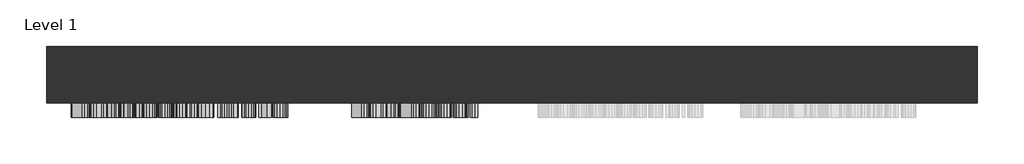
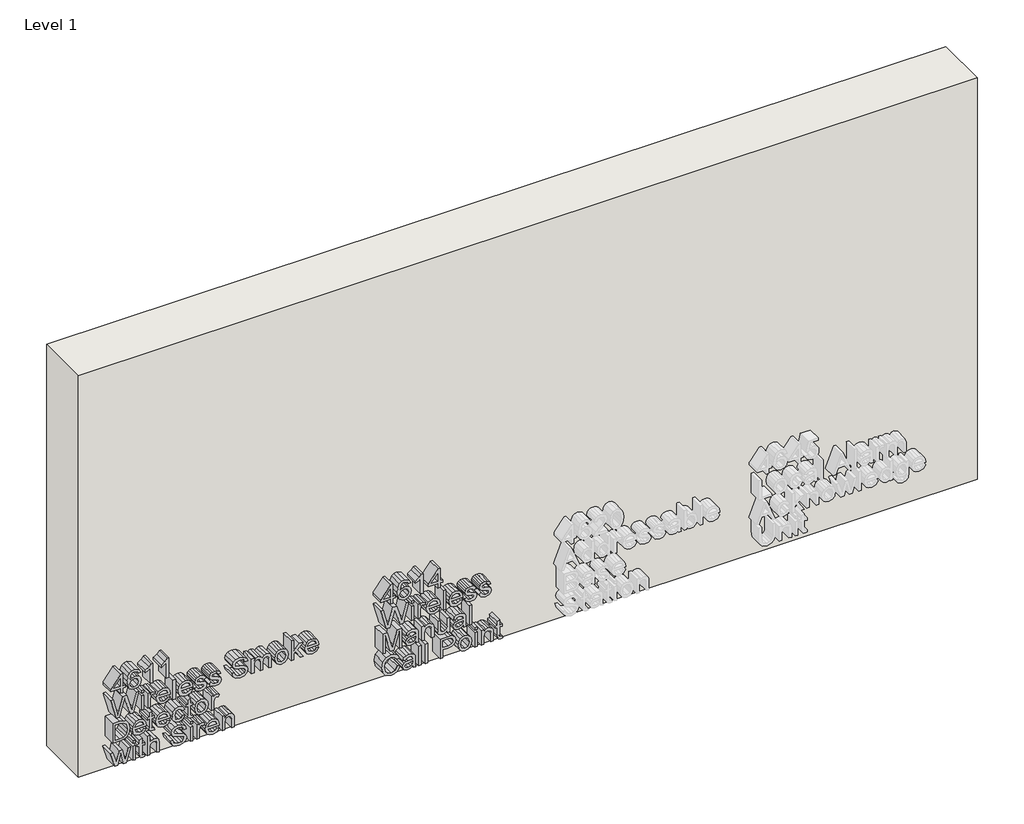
# One storey, part 1 of 2: 2 proxies, 1 wall.
"""IFC4 building model written with IfcOpenShell, lengths in millimetres."""

from ifc_helpers import new_model, si_unit, frame, origin, origin_with_axes, place, context, project, spatial, polyline, outline, extrude, element, save

model = new_model("IFC4")

# Units and contexts
model_context = context("Model", 3, world=origin())
ifc_project = project(units=[si_unit("LENGTHUNIT", "METRE", prefix="MILLI")], contexts=[model_context])

# Site, building, storey
site = spatial("IfcSite", under=ifc_project)
building = spatial("IfcBuilding", under=site)
storey = spatial("IfcBuildingStorey", under=building, Name="Level 1", Elevation=0.0)

# Proxies
placement = place(None, origin())
element("IfcBuildingElementProxy", 1, Name="75 mm", ObjectType="75 mm", at=placement, inside=storey, context=model_context, shape_type="SweptSolid", body=[
    extrude(outline(polyline([(309.699397, -3818.7442573), (309.699397, -3809.3264782), (327.3577328, -3809.3264782), (327.3577328, -3799.9086991), (336.7755119, -3799.9086991), (336.7755119, -3809.3264782), (383.8644073, -3809.3264782), (383.8644073, -3816.3898125), (336.7755119, -3852.8837064), (327.3577328, -3852.8837064), (327.3577328, -3818.7442573), (309.699397, -3818.7442573)]), holes=[polyline([(336.7755119, -3818.7442573), (336.7755119, -3841.2954236), (365.8749777, -3818.7442573), (336.7755119, -3818.7442573)])]), frame((0.0, 3097.8550077, 0.0), z_axis=(0.0, 1.0, 0.0), x_axis=(0.0, 0.0, 1.0)), (0.0, 0.0, 1.0), 50.0),
    extrude(outline(polyline([(365.0288491, -3743.4020247), (379.7257348, -3750.3549944), (385.0416297, -3765.2358211), (382.8941185, -3776.1665149), (376.4515851, -3784.6048081), (363.626299, -3790.7852256), (344.8689158, -3792.8453648), (328.1854673, -3790.98986), (316.9834605, -3785.4233456), (310.6374961, -3776.9137752), (308.5221747, -3766.2291025), (311.713551, -3753.8866615), (320.9106008, -3745.3334051), (333.9060323, -3742.2248023), (343.5583362, -3743.8756727), (351.2516684, -3748.8282841), (356.2870532, -3756.1307417), (357.9655148, -3764.8311509), (355.5099025, -3775.1226497), (347.9959127, -3783.4275857), (364.7805288, -3780.7512442), (373.3429822, -3774.3225064), (375.6238506, -3765.8244323), (371.7059073, -3756.3882591), (363.8516267, -3752.8198037), (365.0288491, -3743.4020247)]), holes=[polyline([(334.0531851, -3783.4275857), (344.547019, -3778.7462873), (348.5477357, -3767.3511425), (344.547019, -3755.808845), (333.5933326, -3751.6425814), (322.1522026, -3755.8640272), (317.9399537, -3766.9648665), (319.9725018, -3775.4537435), (325.8954019, -3781.2478849), (334.0531851, -3783.4275857)])]), frame((0.0, 3097.8550077, 0.0), z_axis=(0.0, 1.0, 0.0), x_axis=(0.0, 0.0, 1.0)), (0.0, 0.0, 1.0), 50.0),
    extrude(outline(polyline([(309.699397, -3698.667574), (385.0416297, -3698.667574), (385.0416297, -3704.737627), (375.0168453, -3713.1161394), (366.2060715, -3726.9209113), (357.3033272, -3726.9209113), (362.058202, -3717.0064915), (368.4133635, -3708.0853531), (309.699397, -3708.0853531), (309.699397, -3698.667574)])), frame((0.0, 3097.8550077, 0.0), z_axis=(0.0, 1.0, 0.0), x_axis=(0.0, 0.0, 1.0)), (0.0, 0.0, 1.0), 50.0),
    extrude(outline(polyline([(309.699397, -3640.9836772), (385.0416297, -3640.9836772), (385.0416297, -3647.0537301), (375.0168453, -3655.4322426), (366.2060715, -3669.2370144), (357.3033272, -3669.2370144), (362.058202, -3659.3225947), (368.4133635, -3650.4014563), (309.699397, -3650.4014563), (309.699397, -3640.9836772)])), frame((0.0, 3097.8550077, 0.0), z_axis=(0.0, 1.0, 0.0), x_axis=(0.0, 0.0, 1.0)), (0.0, 0.0, 1.0), 50.0),
    extrude(outline(polyline([(218.2182837, -3832.337497), (218.2182837, -3820.9699433), (274.6881699, -3804.5072241), (284.4554369, -3801.6745327), (276.3436389, -3799.154541), (218.2182837, -3781.0915351), (218.2182837, -3771.0299625), (293.5605163, -3750.465359), (293.5605163, -3760.1774436), (243.6021413, -3772.2071849), (228.7581028, -3775.7756402), (256.3860407, -3783.85065), (293.5605163, -3794.7031689), (293.5605163, -3808.7010788), (242.2777661, -3823.6370878), (228.7581028, -3827.5734252), (244.0435997, -3831.2522451), (293.5605163, -3843.1716218), (293.5605163, -3852.8837064), (218.2182837, -3832.337497)])), frame((0.0, 3097.8550077, 0.0), z_axis=(0.0, 1.0, 0.0), x_axis=(0.0, 0.0, 1.0)), (0.0, 0.0, 1.0), 50.0),
    extrude(outline(polyline([(-3732.8070232, 3097.8550077), (-3742.2248023, 3097.8550077), (-3742.2248023, 3147.8550077), (-3732.8070232, 3147.8550077), (-3732.8070232, 3097.8550077)])), frame((0.0, 0.0, 284.1427372), z_axis=(0.0, 0.0, 1.0), x_axis=(1.0, 0.0, 0.0)), (0.0, 0.0, 1.0), 9.4177791),
    extrude(outline(polyline([(-3732.8070232, 3097.8550077), (-3742.2248023, 3097.8550077), (-3742.2248023, 3147.8550077), (-3732.8070232, 3147.8550077), (-3732.8070232, 3097.8550077)])), frame((0.0, 0.0, 218.2182837), z_axis=(0.0, 0.0, 1.0), x_axis=(1.0, 0.0, 0.0)), (0.0, 0.0, 1.0), 55.3294521),
    extrude(outline(polyline([(218.2182837, -3718.6803546), (218.2182837, -3709.2625755), (247.2993554, -3709.2625755), (258.299027, -3707.7358652), (263.449375, -3704.3421538), (265.307179, -3699.0170619), (263.3757986, -3692.395186), (271.8186904, -3689.249795), (274.7249581, -3698.7043622), (272.9039422, -3704.5904742), (265.3623613, -3710.4397979), (273.5477357, -3710.4397979), (273.5477357, -3718.6803546), (218.2182837, -3718.6803546)])), frame((0.0, 3097.8550077, 0.0), z_axis=(0.0, 1.0, 0.0), x_axis=(0.0, 0.0, 1.0)), (0.0, 0.0, 1.0), 50.0),
    extrude(outline(polyline([(234.699397, -3644.625709), (228.427009, -3650.6957619), (226.4588403, -3659.9296), (230.7078774, -3672.0605087), (242.9399537, -3677.4775711), (242.9399537, -3635.1527476), (245.4783395, -3635.0975653), (257.825379, -3636.8840922), (267.0546185, -3642.243673), (272.8073732, -3650.4175511), (274.7249581, -3660.6469698), (272.8027747, -3671.2051831), (267.0362244, -3679.5928926), (257.7885908, -3685.0697358), (245.4231572, -3686.8953502), (233.4600946, -3685.0881299), (224.4998687, -3679.666469), (218.9057631, -3671.1637964), (217.0410613, -3660.113541), (221.3636747, -3644.0279007), (233.5221747, -3635.3918709), (234.699397, -3644.625709)]), holes=[polyline([(252.3577328, -3677.4775711), (261.7847089, -3672.2812379), (265.307179, -3660.683758), (260.8925951, -3648.2861348), (252.3577328, -3644.5153444), (252.3577328, -3677.4775711)])]), frame((0.0, 3097.8550077, 0.0), z_axis=(0.0, 1.0, 0.0), x_axis=(0.0, 0.0, 1.0)), (0.0, 0.0, 1.0), 50.0),
    extrude(outline(polyline([(-3616.2620071, 3097.8550077), (-3625.6797862, 3097.8550077), (-3625.6797862, 3147.8550077), (-3616.2620071, 3147.8550077), (-3616.2620071, 3097.8550077)])), frame((0.0, 0.0, 218.2182837), z_axis=(0.0, 0.0, 1.0), x_axis=(1.0, 0.0, 0.0)), (0.0, 0.0, 1.0), 75.3422326),
    extrude(outline(polyline([(234.699397, -3563.3973644), (228.427009, -3569.4674173), (226.4588403, -3578.7012554), (230.7078774, -3590.8321642), (242.9399537, -3596.2492266), (242.9399537, -3553.924403), (245.4783395, -3553.8692207), (257.825379, -3555.6557477), (267.0546185, -3561.0153285), (272.8073732, -3569.1892066), (274.7249581, -3579.4186253), (272.8027747, -3589.9768386), (267.0362244, -3598.3645481), (257.7885908, -3603.8413913), (245.4231572, -3605.6670057), (233.4600946, -3603.8597854), (224.4998687, -3598.4381245), (218.9057631, -3589.9354518), (217.0410613, -3578.8851964), (221.3636747, -3562.7995562), (233.5221747, -3554.1635263), (234.699397, -3563.3973644)]), holes=[polyline([(252.3577328, -3596.2492266), (261.7847089, -3591.0528934), (265.307179, -3579.4554135), (260.8925951, -3567.0577903), (252.3577328, -3563.2869998), (252.3577328, -3596.2492266)])]), frame((0.0, 3097.8550077, 0.0), z_axis=(0.0, 1.0, 0.0), x_axis=(0.0, 0.0, 1.0)), (0.0, 0.0, 1.0), 50.0),
    extrude(outline(polyline([(234.699397, -3547.9831088), (221.4924334, -3540.7726217), (217.0410613, -3524.3466906), (219.3495208, -3512.6848314), (225.8886233, -3504.8029596), (234.9017321, -3502.0714358), (243.0871065, -3504.3982894), (248.1086958, -3510.8178303), (252.5416738, -3524.6409962), (254.5466307, -3532.7527942), (256.625164, -3536.2660673), (259.3658848, -3537.3881074), (263.5229514, -3534.6841747), (265.307179, -3525.6710658), (263.4401779, -3517.3845239), (258.2438447, -3513.8436597), (259.4210671, -3504.4258806), (267.873156, -3507.6632422), (272.8763511, -3514.9473057), (274.7249581, -3526.4068298), (273.5753269, -3534.5094308), (270.7886208, -3540.4967102), (265.4267407, -3545.1136293), (258.4093916, -3546.8058864), (250.8126284, -3544.699762), (245.4323543, -3538.5101474), (240.8246323, -3524.3282965), (238.1390937, -3514.634606), (233.9084508, -3511.4892149), (228.6845264, -3514.6162119), (226.4588403, -3524.2179319), (228.8868615, -3534.2059281), (235.8766194, -3538.5653297), (234.699397, -3547.9831088)])), frame((0.0, 3097.8550077, 0.0), z_axis=(0.0, 1.0, 0.0), x_axis=(0.0, 0.0, 1.0)), (0.0, 0.0, 1.0), 50.0),
    extrude(outline(polyline([(234.699397, -3495.0081015), (221.4924334, -3487.7976144), (217.0410613, -3471.3716833), (219.3495208, -3459.7098241), (225.8886233, -3451.8279523), (234.9017321, -3449.0964285), (243.0871065, -3451.4232821), (248.1086958, -3457.842823), (252.5416738, -3471.6659889), (254.5466307, -3479.7777869), (256.625164, -3483.29106), (259.3658848, -3484.4131001), (263.5229514, -3481.7091674), (265.307179, -3472.6960585), (263.4401779, -3464.4095166), (258.2438447, -3460.8686524), (259.4210671, -3451.4508733), (267.873156, -3454.6882348), (272.8763511, -3461.9722984), (274.7249581, -3473.4318225), (273.5753269, -3481.5344234), (270.7886208, -3487.5217029), (265.4267407, -3492.138622), (258.4093916, -3493.8308791), (250.8126284, -3491.7247547), (245.4323543, -3485.5351401), (240.8246323, -3471.3532892), (238.1390937, -3461.6595987), (233.9084508, -3458.5142076), (228.6845264, -3461.6412046), (226.4588403, -3471.2429246), (228.8868615, -3481.2309208), (235.8766194, -3485.5903224), (234.699397, -3495.0081015)])), frame((0.0, 3097.8550077, 0.0), z_axis=(0.0, 1.0, 0.0), x_axis=(0.0, 0.0, 1.0)), (0.0, 0.0, 1.0), 50.0),
    extrude(outline(polyline([(244.1171761, -3411.4253122), (229.7329901, -3407.3602162), (220.2048464, -3396.7192295), (217.0410613, -3379.8978252), (219.9749202, -3365.651595), (228.1970828, -3355.9395103), (239.4634689, -3352.564193), (250.1136526, -3355.4980519), (257.747204, -3364.6123283), (262.4744877, -3381.2773827), (267.7352002, -3396.6548501), (274.2651056, -3399.6530884), (282.082598, -3395.4224454), (285.3199596, -3381.9395703), (282.0458098, -3368.4934834), (272.3705133, -3363.1591944), (272.3705133, -3353.7414154), (284.1611313, -3357.4754176), (292.0522001, -3367.4082315), (294.7377387, -3382.3074523), (292.1717617, -3396.268574), (284.6485749, -3405.8059147), (273.9891941, -3409.0708674), (264.6265973, -3406.4313141), (257.6184453, -3398.4206837), (252.9739352, -3383.6594186), (249.3778886, -3369.9466173), (245.1012605, -3363.5454705), (239.2243456, -3361.9819721), (232.9059723, -3364.0697024), (228.1786887, -3370.4248639), (226.4588403, -3380.2657072), (228.7305117, -3391.5596845), (234.6902, -3398.9725067), (244.1171761, -3402.0075331), (244.1171761, -3411.4253122)])), frame((0.0, 3097.8550077, 0.0), z_axis=(0.0, 1.0, 0.0), x_axis=(0.0, 0.0, 1.0)), (0.0, 0.0, 1.0), 50.0),
    extrude(outline(polyline([(218.2182837, -3339.6147468), (218.2182837, -3330.1969677), (246.122133, -3330.1969677), (257.3609279, -3328.7622279), (263.2838281, -3324.1269148), (265.307179, -3317.155551), (262.2721526, -3310.0094432), (253.1486791, -3307.8297424), (218.2182837, -3307.8297424), (218.2182837, -3298.4119633), (249.451465, -3298.4119633), (261.5363886, -3294.7239463), (265.307179, -3285.4625171), (263.8356511, -3280.0822429), (259.9636931, -3276.9184577), (252.1002154, -3276.044738), (218.2182837, -3276.044738), (218.2182837, -3266.6269589), (256.1469174, -3266.6269589), (270.1724184, -3270.9403753), (274.7249581, -3283.2552251), (271.9888358, -3292.5350484), (263.7804688, -3299.8834913), (271.8462815, -3305.0706274), (274.7249581, -3314.5068006), (271.9014638, -3323.7222446), (264.4426564, -3330.1969677), (273.5477357, -3330.1969677), (273.5477357, -3339.6147468), (218.2182837, -3339.6147468)])), frame((0.0, 3097.8550077, 0.0), z_axis=(0.0, 1.0, 0.0), x_axis=(0.0, 0.0, 1.0)), (0.0, 0.0, 1.0), 50.0),
    extrude(outline(polyline([(245.8830097, -3254.8547351), (233.5405688, -3253.1463831), (224.4722776, -3248.021327), (218.8988653, -3240.1279589), (217.0410613, -3230.1146709), (220.4163786, -3217.3583627), (229.898537, -3208.4648155), (246.6555619, -3205.4113949), (258.3840997, -3207.138141), (267.2661507, -3212.3183794), (272.8602563, -3220.2209445), (274.7249581, -3230.1146709), (273.1936493, -3239.1553709), (268.5997229, -3246.7061489), (259.2233305, -3252.8175885), (245.8830097, -3254.8547351)]), holes=[polyline([(245.9014038, -3245.436956), (260.4787279, -3241.0775543), (265.307179, -3230.1146709), (260.4603338, -3219.2161668), (246.1957094, -3214.829174), (231.3332768, -3219.1885756), (226.4588403, -3230.1146709), (231.3056856, -3241.0775543), (245.9014038, -3245.436956)])]), frame((0.0, 3097.8550077, 0.0), z_axis=(0.0, 1.0, 0.0), x_axis=(0.0, 0.0, 1.0)), (0.0, 0.0, 1.0), 50.0),
    extrude(outline(polyline([(218.2182837, -3194.8163935), (218.2182837, -3185.3986144), (240.4383562, -3185.3986144), (246.2692858, -3179.3837438), (218.2182837, -3161.0816145), (218.2182837, -3150.0819428), (252.8175853, -3172.6331091), (273.5477357, -3151.2591652), (273.5477357, -3164.2821879), (253.0751027, -3185.3986144), (293.5605163, -3185.3986144), (293.5605163, -3194.8163935), (218.2182837, -3194.8163935)])), frame((0.0, 3097.8550077, 0.0), z_axis=(0.0, 1.0, 0.0), x_axis=(0.0, 0.0, 1.0)), (0.0, 0.0, 1.0), 50.0),
    extrude(outline(polyline([(234.699397, -3103.1034121), (228.427009, -3109.173465), (226.4588403, -3118.4073031), (230.7078774, -3130.5382118), (242.9399537, -3135.9552742), (242.9399537, -3093.6304507), (245.4783395, -3093.5752684), (257.825379, -3095.3617953), (267.0546185, -3100.7213761), (272.8073732, -3108.8952542), (274.7249581, -3119.1246729), (272.8027747, -3129.6828862), (267.0362244, -3138.0705957), (257.7885908, -3143.5474389), (245.4231572, -3145.3730533), (233.4600946, -3143.565833), (224.4998687, -3138.1441721), (218.9057631, -3129.6414995), (217.0410613, -3118.5912441), (221.3636747, -3102.5056038), (233.5221747, -3093.869574), (234.699397, -3103.1034121)]), holes=[polyline([(252.3577328, -3135.9552742), (261.7847089, -3130.758941), (265.307179, -3119.1614611), (260.8925951, -3106.7638379), (252.3577328, -3102.9930475), (252.3577328, -3135.9552742)])]), frame((0.0, 3097.8550077, 0.0), z_axis=(0.0, 1.0, 0.0), x_axis=(0.0, 0.0, 1.0)), (0.0, 0.0, 1.0), 50.0),
    extrude(outline(polyline([(126.7371703, -3845.8203721), (126.7371703, -3818.5787104), (128.0247573, -3806.4661957), (131.8047448, -3797.4622839), (138.6381528, -3790.5828905), (149.6102333, -3785.4325426), (164.8129568, -3783.4275857), (182.7288099, -3786.3890358), (195.6046798, -3795.3101742), (200.994151, -3806.3834222), (202.0794029, -3819.8295092), (202.0794029, -3845.8203721), (126.7371703, -3845.8203721)]), holes=[polyline([(136.1549494, -3836.402593), (192.6616238, -3836.402593), (192.6616238, -3819.9950561), (191.1533076, -3806.6409396), (182.8023863, -3796.8644756), (164.9601096, -3792.8453648), (150.7138793, -3794.8963069), (141.3604796, -3800.626069), (137.5161127, -3807.6158269), (136.1549494, -3819.7375387), (136.1549494, -3836.402593)])]), frame((0.0, 3097.8550077, 0.0), z_axis=(0.0, 1.0, 0.0), x_axis=(0.0, 0.0, 1.0)), (0.0, 0.0, 1.0), 50.0),
    extrude(outline(polyline([(143.2182837, -3732.9173878), (136.9458956, -3738.9874407), (134.977727, -3748.2212788), (139.226764, -3760.3521876), (151.4588403, -3765.76925), (151.4588403, -3723.4444264), (153.9972261, -3723.3892441), (166.3442656, -3725.1757711), (175.5735051, -3730.5353519), (181.3262598, -3738.70923), (183.2438447, -3748.9386487), (181.3216613, -3759.496862), (175.555111, -3767.8845714), (166.3074774, -3773.3614146), (153.9420438, -3775.187029), (141.9789812, -3773.3798087), (133.0187553, -3767.9581478), (127.4246498, -3759.4554752), (125.5599479, -3748.4052198), (129.8825613, -3732.3195796), (142.0410613, -3723.6835497), (143.2182837, -3732.9173878)]), holes=[polyline([(160.8766194, -3765.76925), (170.3035956, -3760.5729168), (173.8260657, -3748.9754369), (169.4114817, -3736.5778137), (160.8766194, -3732.8070232), (160.8766194, -3765.76925)])]), frame((0.0, 3097.8550077, 0.0), z_axis=(0.0, 1.0, 0.0), x_axis=(0.0, 0.0, 1.0)), (0.0, 0.0, 1.0), 50.0),
    extrude(outline(polyline([(134.5914509, -3693.9586845), (134.977727, -3698.0605688), (135.6123234, -3701.2703392), (137.3321717, -3702.8798229), (142.1882141, -3703.3764636), (172.6488433, -3703.3764636), (172.6488433, -3693.9586845), (182.0666223, -3693.9586845), (182.0666223, -3703.3764636), (201.0493333, -3703.3764636), (195.5127093, -3712.7942427), (182.0666223, -3712.7942427), (182.0666223, -3719.857577), (172.6488433, -3719.857577), (172.6488433, -3712.7942427), (141.9123026, -3712.7942427), (131.2253306, -3711.6538085), (127.1234464, -3707.7174711), (125.5599479, -3699.8264023), (126.4612588, -3692.7814621), (134.5914509, -3693.9586845)])), frame((0.0, 3097.8550077, 0.0), z_axis=(0.0, 1.0, 0.0), x_axis=(0.0, 0.0, 1.0)), (0.0, 0.0, 1.0), 50.0),
    extrude(outline(polyline([(143.2182837, -3645.8029313), (136.9458956, -3651.8729843), (134.977727, -3661.1068223), (139.226764, -3673.2377311), (151.4588403, -3678.6547935), (151.4588403, -3636.32997), (153.9972261, -3636.2747877), (166.3442656, -3638.0613146), (175.5735051, -3643.4208954), (181.3262598, -3651.5947735), (183.2438447, -3661.8241922), (181.3216613, -3672.3824055), (175.555111, -3680.770115), (166.3074774, -3686.2469582), (153.9420438, -3688.0725726), (141.9789812, -3686.2653523), (133.0187553, -3680.8436914), (127.4246498, -3672.3410188), (125.5599479, -3661.2907633), (129.8825613, -3645.2051231), (142.0410613, -3636.5690933), (143.2182837, -3645.8029313)]), holes=[polyline([(160.8766194, -3678.6547935), (170.3035956, -3673.4584603), (173.8260657, -3661.8609804), (169.4114817, -3649.4633572), (160.8766194, -3645.6925667), (160.8766194, -3678.6547935)])]), frame((0.0, 3097.8550077, 0.0), z_axis=(0.0, 1.0, 0.0), x_axis=(0.0, 0.0, 1.0)), (0.0, 0.0, 1.0), 50.0),
    extrude(outline(polyline([(146.7499508, -3591.5403371), (137.8656006, -3596.0560885), (134.977727, -3604.9312417), (139.6038431, -3615.682593), (154.4570786, -3619.7936743), (169.1723584, -3615.5906225), (173.8260657, -3604.6737243), (171.4624238, -3597.0861581), (164.4082866, -3592.7175594), (165.585509, -3583.2997804), (178.6453198, -3590.427494), (183.2438447, -3604.7473007), (179.8961186, -3617.5587912), (169.8437431, -3626.3327767), (154.1995612, -3629.2114534), (141.9743827, -3627.526094), (132.963573, -3622.4700158), (127.4108542, -3614.6364286), (125.5599479, -3604.618542), (130.8666457, -3589.682533), (145.5727284, -3582.122558), (146.7499508, -3591.5403371)])), frame((0.0, 3097.8550077, 0.0), z_axis=(0.0, 1.0, 0.0), x_axis=(0.0, 0.0, 1.0)), (0.0, 0.0, 1.0), 50.0),
    extrude(outline(polyline([(134.5914509, -3553.8692207), (134.977727, -3557.971105), (135.6123234, -3561.1808754), (137.3321717, -3562.7903591), (142.1882141, -3563.2869998), (172.6488433, -3563.2869998), (172.6488433, -3553.8692207), (182.0666223, -3553.8692207), (182.0666223, -3563.2869998), (201.0493333, -3563.2869998), (195.5127093, -3572.7047789), (182.0666223, -3572.7047789), (182.0666223, -3579.7681132), (172.6488433, -3579.7681132), (172.6488433, -3572.7047789), (141.9123026, -3572.7047789), (131.2253306, -3571.5643447), (127.1234464, -3567.6280074), (125.5599479, -3559.7369386), (126.4612588, -3552.6919984), (134.5914509, -3553.8692207)])), frame((0.0, 3097.8550077, 0.0), z_axis=(0.0, 1.0, 0.0), x_axis=(0.0, 0.0, 1.0)), (0.0, 0.0, 1.0), 50.0),
    extrude(outline(polyline([(154.4018963, -3546.8058864), (142.0594554, -3545.0975344), (132.9911642, -3539.9724784), (127.417752, -3532.0791103), (125.5599479, -3522.0658223), (128.9352652, -3509.3095141), (138.4174236, -3500.4159668), (155.1744485, -3497.3625463), (166.9029864, -3499.0892924), (175.7850373, -3504.2695307), (181.3791429, -3512.1720959), (183.2438447, -3522.0658223), (181.7125359, -3531.1065223), (177.1186095, -3538.6573002), (167.7422172, -3544.7687399), (154.4018963, -3546.8058864)]), holes=[polyline([(154.4202904, -3537.3881074), (168.9976145, -3533.0287057), (173.8260657, -3522.0658223), (168.9792204, -3511.1673182), (154.714596, -3506.7803254), (139.8521634, -3511.139727), (134.977727, -3522.0658223), (139.8245723, -3533.0287057), (154.4202904, -3537.3881074)])]), frame((0.0, 3097.8550077, 0.0), z_axis=(0.0, 1.0, 0.0), x_axis=(0.0, 0.0, 1.0)), (0.0, 0.0, 1.0), 50.0),
    extrude(outline(polyline([(126.7371703, -3486.7675448), (126.7371703, -3477.3497658), (155.818242, -3477.3497658), (166.8179136, -3475.8230555), (171.9682616, -3472.4293441), (173.8260657, -3467.1042522), (171.8946852, -3460.4823763), (180.337577, -3457.3369852), (183.2438447, -3466.7915525), (181.4228289, -3472.6776644), (173.881248, -3478.5269881), (182.0666223, -3478.5269881), (182.0666223, -3486.7675448), (126.7371703, -3486.7675448)])), frame((0.0, 3097.8550077, 0.0), z_axis=(0.0, 1.0, 0.0), x_axis=(0.0, 0.0, 1.0)), (0.0, 0.0, 1.0), 50.0),
    extrude(outline(polyline([(35.2560569, -3837.8189387), (35.2560569, -3826.3042323), (77.8200037, -3816.9784237), (67.7032489, -3814.8814963), (35.2560569, -3807.6526151), (35.2560569, -3796.2666674), (90.585509, -3779.3073074), (90.585509, -3789.1297567), (58.5245931, -3798.6946885), (47.9111975, -3801.6745327), (57.9727701, -3803.753066), (90.585509, -3811.313041), (90.585509, -3822.5334418), (57.8807996, -3830.130205), (46.7707633, -3832.4662557), (58.3038639, -3835.3173412), (90.585509, -3844.8638789), (90.585509, -3854.64954), (35.2560569, -3837.8189387)])), frame((0.0, 3097.8550077, 0.0), z_axis=(0.0, 1.0, 0.0), x_axis=(0.0, 0.0, 1.0)), (0.0, 0.0, 1.0), 50.0),
    extrude(outline(polyline([(-3763.4148052, 3097.8550077), (-3772.8325843, 3097.8550077), (-3772.8325843, 3147.8550077), (-3763.4148052, 3147.8550077), (-3763.4148052, 3097.8550077)])), frame((0.0, 0.0, 101.1805104), z_axis=(0.0, 0.0, 1.0), x_axis=(1.0, 0.0, 0.0)), (0.0, 0.0, 1.0), 9.4177791),
    extrude(outline(polyline([(-3763.4148052, 3097.8550077), (-3772.8325843, 3097.8550077), (-3772.8325843, 3147.8550077), (-3763.4148052, 3147.8550077), (-3763.4148052, 3097.8550077)])), frame((0.0, 0.0, 35.2560569), z_axis=(0.0, 0.0, 1.0), x_axis=(1.0, 0.0, 0.0)), (0.0, 0.0, 1.0), 55.3294521),
    extrude(outline(polyline([(43.1103375, -3729.275356), (43.4966136, -3733.3772403), (44.13121, -3736.5870107), (45.8510584, -3738.1964944), (50.7071007, -3738.6931351), (81.1677299, -3738.6931351), (81.1677299, -3729.275356), (90.585509, -3729.275356), (90.585509, -3738.6931351), (109.5682199, -3738.6931351), (104.0315959, -3748.1109142), (90.585509, -3748.1109142), (90.585509, -3755.1742485), (81.1677299, -3755.1742485), (81.1677299, -3748.1109142), (50.4311892, -3748.1109142), (39.7442172, -3746.97048), (35.642333, -3743.0341427), (34.0788345, -3735.1430739), (34.9801454, -3728.0981337), (43.1103375, -3729.275356)])), frame((0.0, 3097.8550077, 0.0), z_axis=(0.0, 1.0, 0.0), x_axis=(0.0, 0.0, 1.0)), (0.0, 0.0, 1.0), 50.0),
    extrude(outline(polyline([(35.2560569, -3719.857577), (35.2560569, -3710.4397979), (64.6498283, -3710.4397979), (74.5642481, -3708.9038906), (80.2480249, -3703.7535426), (82.3449523, -3696.0372178), (79.2363494, -3687.5391437), (69.3035355, -3684.5409054), (35.2560569, -3684.5409054), (35.2560569, -3675.1231264), (70.2784228, -3675.1231264), (82.657652, -3677.0545068), (89.3439072, -3683.4740476), (91.7627313, -3694.050655), (89.5462423, -3703.0959536), (82.8967753, -3710.4397979), (110.5982895, -3710.4397979), (110.5982895, -3719.857577), (35.2560569, -3719.857577)])), frame((0.0, 3097.8550077, 0.0), z_axis=(0.0, 1.0, 0.0), x_axis=(0.0, 0.0, 1.0)), (0.0, 0.0, 1.0), 50.0),
    extrude(outline(polyline([(61.1549494, -3635.0975653), (46.7707633, -3631.0324692), (37.2426197, -3620.3914825), (34.0788345, -3603.5700783), (37.0126934, -3589.323848), (45.234856, -3579.6117634), (56.5012421, -3576.2364461), (67.1514259, -3579.170305), (74.7849773, -3588.2845814), (79.5122609, -3604.9496358), (84.7729734, -3620.3271032), (91.3028789, -3623.3253414), (99.1203713, -3619.0946985), (102.3577328, -3605.6118234), (99.0835831, -3592.1657364), (89.4082866, -3586.8314475), (89.4082866, -3577.4136684), (101.1989045, -3581.1476707), (109.0899733, -3591.0804846), (111.7755119, -3605.9797054), (109.209535, -3619.9408271), (101.6863482, -3629.4781678), (91.0269674, -3632.7431205), (81.6643706, -3630.1035672), (74.6562186, -3622.0929368), (70.0117084, -3607.3316717), (66.4156619, -3593.6188703), (62.1390337, -3587.2177236), (56.2621188, -3585.6542251), (49.9437455, -3587.7419555), (45.2164619, -3594.0971169), (43.4966136, -3603.9379603), (45.7682849, -3615.2319375), (51.7279732, -3622.6447597), (61.1549494, -3625.6797862), (61.1549494, -3635.0975653)])), frame((0.0, 3097.8550077, 0.0), z_axis=(0.0, 1.0, 0.0), x_axis=(0.0, 0.0, 1.0)), (0.0, 0.0, 1.0), 50.0),
    extrude(outline(polyline([(-3553.8692207, 3097.8550077), (-3563.2869998, 3097.8550077), (-3563.2869998, 3147.8550077), (-3553.8692207, 3147.8550077), (-3553.8692207, 3097.8550077)])), frame((0.0, 0.0, 101.1805104), z_axis=(0.0, 0.0, 1.0), x_axis=(1.0, 0.0, 0.0)), (0.0, 0.0, 1.0), 9.4177791),
    extrude(outline(polyline([(-3553.8692207, 3097.8550077), (-3563.2869998, 3097.8550077), (-3563.2869998, 3147.8550077), (-3553.8692207, 3147.8550077), (-3553.8692207, 3097.8550077)])), frame((0.0, 0.0, 35.2560569), z_axis=(0.0, 0.0, 1.0), x_axis=(1.0, 0.0, 0.0)), (0.0, 0.0, 1.0), 55.3294521),
    extrude(outline(polyline([(35.2560569, -3539.7425521), (35.2560569, -3530.3247731), (64.3371286, -3530.3247731), (75.3368003, -3528.7980628), (80.4871482, -3525.4043514), (82.3449523, -3520.0792595), (80.4135718, -3513.4573836), (88.8564636, -3510.3119925), (91.7627313, -3519.7665598), (89.9417155, -3525.6526717), (82.4001346, -3531.5019954), (90.585509, -3531.5019954), (90.585509, -3539.7425521), (35.2560569, -3539.7425521)])), frame((0.0, 3097.8550077, 0.0), z_axis=(0.0, 1.0, 0.0), x_axis=(0.0, 0.0, 1.0)), (0.0, 0.0, 1.0), 50.0),
    extrude(outline(polyline([(51.7371703, -3465.6879065), (45.4647823, -3471.7579594), (43.4966136, -3480.9917975), (47.7456506, -3493.1227063), (59.977727, -3498.5397687), (59.977727, -3456.2149451), (62.5161127, -3456.1597628), (74.8631522, -3457.9462898), (84.0923917, -3463.3058706), (89.8451464, -3471.4797487), (91.7627313, -3481.7091674), (89.8405479, -3492.2673807), (84.0739977, -3500.6550901), (74.826364, -3506.1319333), (62.4609304, -3507.9575477), (50.4978678, -3506.1503274), (41.537642, -3500.7286665), (35.9435364, -3492.2259939), (34.0788345, -3481.1757385), (38.4014479, -3465.0900983), (50.5599479, -3456.4540684), (51.7371703, -3465.6879065)]), holes=[polyline([(69.395506, -3498.5397687), (78.8224822, -3493.3434355), (82.3449523, -3481.7459556), (77.9303683, -3469.3483324), (69.395506, -3465.5775419), (69.395506, -3498.5397687)])]), frame((0.0, 3097.8550077, 0.0), z_axis=(0.0, 1.0, 0.0), x_axis=(0.0, 0.0, 1.0)), (0.0, 0.0, 1.0), 50.0),
    extrude(outline(polyline([(35.2560569, -3446.7419838), (35.2560569, -3437.3242047), (64.6130401, -3437.3242047), (78.6477382, -3433.0291824), (82.3449523, -3422.81126), (80.6986803, -3416.3457339), (76.2932935, -3412.5105641), (67.9607663, -3411.4253122), (35.2560569, -3411.4253122), (35.2560569, -3402.0075331), (69.2299591, -3402.0075331), (78.3350385, -3402.5041738), (85.2604171, -3405.3276681), (89.9693066, -3411.3977211), (91.7627313, -3420.2912683), (89.5370453, -3430.1229146), (82.8599871, -3437.3242047), (90.585509, -3437.3242047), (90.585509, -3446.7419838), (35.2560569, -3446.7419838)])), frame((0.0, 3097.8550077, 0.0), z_axis=(0.0, 1.0, 0.0), x_axis=(0.0, 0.0, 1.0)), (0.0, 0.0, 1.0), 50.0),
])
element("IfcBuildingElementProxy", 2, Name="75 mm", ObjectType="75 mm", at=placement, inside=storey, context=model_context, shape_type="SweptSolid", body=[
    extrude(outline(polyline([(309.699397, -2833.7442573), (309.699397, -2824.3264782), (327.3577328, -2824.3264782), (327.3577328, -2814.9086991), (336.7755119, -2814.9086991), (336.7755119, -2824.3264782), (383.8644073, -2824.3264782), (383.8644073, -2831.3898125), (336.7755119, -2867.8837064), (327.3577328, -2867.8837064), (327.3577328, -2833.7442573), (309.699397, -2833.7442573)]), holes=[polyline([(336.7755119, -2833.7442573), (336.7755119, -2856.2954236), (365.8749777, -2833.7442573), (336.7755119, -2833.7442573)])]), frame((0.0, 3097.8550077, 0.0), z_axis=(0.0, 1.0, 0.0), x_axis=(0.0, 0.0, 1.0)), (0.0, 0.0, 1.0), 50.0),
    extrude(outline(polyline([(365.0288491, -2758.4020247), (379.7257348, -2765.3549944), (385.0416297, -2780.2358211), (382.8941185, -2791.1665149), (376.4515851, -2799.6048081), (363.626299, -2805.7852256), (344.8689158, -2807.8453648), (328.1854673, -2805.98986), (316.9834605, -2800.4233456), (310.6374961, -2791.9137752), (308.5221747, -2781.2291025), (311.713551, -2768.8866615), (320.9106008, -2760.3334051), (333.9060323, -2757.2248023), (343.5583362, -2758.8756727), (351.2516684, -2763.8282841), (356.2870532, -2771.1307417), (357.9655148, -2779.8311509), (355.5099025, -2790.1226497), (347.9959127, -2798.4275857), (364.7805288, -2795.7512442), (373.3429822, -2789.3225064), (375.6238506, -2780.8244323), (371.7059073, -2771.3882591), (363.8516267, -2767.8198037), (365.0288491, -2758.4020247)]), holes=[polyline([(334.0531851, -2798.4275857), (344.547019, -2793.7462873), (348.5477357, -2782.3511425), (344.547019, -2770.808845), (333.5933326, -2766.6425814), (322.1522026, -2770.8640272), (317.9399537, -2781.9648665), (319.9725018, -2790.4537435), (325.8954019, -2796.2478849), (334.0531851, -2798.4275857)])]), frame((0.0, 3097.8550077, 0.0), z_axis=(0.0, 1.0, 0.0), x_axis=(0.0, 0.0, 1.0)), (0.0, 0.0, 1.0), 50.0),
    extrude(outline(polyline([(309.699397, -2713.667574), (385.0416297, -2713.667574), (385.0416297, -2719.737627), (375.0168453, -2728.1161394), (366.2060715, -2741.9209113), (357.3033272, -2741.9209113), (362.058202, -2732.0064915), (368.4133635, -2723.0853531), (309.699397, -2723.0853531), (309.699397, -2713.667574)])), frame((0.0, 3097.8550077, 0.0), z_axis=(0.0, 1.0, 0.0), x_axis=(0.0, 0.0, 1.0)), (0.0, 0.0, 1.0), 50.0),
    extrude(outline(polyline([(309.699397, -2660.6925667), (309.699397, -2651.2747877), (327.3577328, -2651.2747877), (327.3577328, -2641.8570086), (336.7755119, -2641.8570086), (336.7755119, -2651.2747877), (383.8644073, -2651.2747877), (383.8644073, -2658.338122), (336.7755119, -2694.8320159), (327.3577328, -2694.8320159), (327.3577328, -2660.6925667), (309.699397, -2660.6925667)]), holes=[polyline([(336.7755119, -2660.6925667), (336.7755119, -2683.243733), (365.8749777, -2660.6925667), (336.7755119, -2660.6925667)])]), frame((0.0, 3097.8550077, 0.0), z_axis=(0.0, 1.0, 0.0), x_axis=(0.0, 0.0, 1.0)), (0.0, 0.0, 1.0), 50.0),
    extrude(outline(polyline([(218.2182837, -2847.337497), (218.2182837, -2835.9699433), (274.6881699, -2819.5072241), (284.4554369, -2816.6745327), (276.3436389, -2814.154541), (218.2182837, -2796.0915351), (218.2182837, -2786.0299625), (293.5605163, -2765.465359), (293.5605163, -2775.1774436), (243.6021413, -2787.2071849), (228.7581028, -2790.7756402), (256.3860407, -2798.85065), (293.5605163, -2809.7031689), (293.5605163, -2823.7010788), (242.2777661, -2838.6370878), (228.7581028, -2842.5734252), (244.0435997, -2846.2522451), (293.5605163, -2858.1716218), (293.5605163, -2867.8837064), (218.2182837, -2847.337497)])), frame((0.0, 3097.8550077, 0.0), z_axis=(0.0, 1.0, 0.0), x_axis=(0.0, 0.0, 1.0)), (0.0, 0.0, 1.0), 50.0),
    extrude(outline(polyline([(-2747.8070232, 3097.8550077), (-2757.2248023, 3097.8550077), (-2757.2248023, 3147.8550077), (-2747.8070232, 3147.8550077), (-2747.8070232, 3097.8550077)])), frame((0.0, 0.0, 284.1427372), z_axis=(0.0, 0.0, 1.0), x_axis=(1.0, 0.0, 0.0)), (0.0, 0.0, 1.0), 9.4177791),
    extrude(outline(polyline([(-2747.8070232, 3097.8550077), (-2757.2248023, 3097.8550077), (-2757.2248023, 3147.8550077), (-2747.8070232, 3147.8550077), (-2747.8070232, 3097.8550077)])), frame((0.0, 0.0, 218.2182837), z_axis=(0.0, 0.0, 1.0), x_axis=(1.0, 0.0, 0.0)), (0.0, 0.0, 1.0), 55.3294521),
    extrude(outline(polyline([(218.2182837, -2733.6803546), (218.2182837, -2724.2625755), (247.2993554, -2724.2625755), (258.299027, -2722.7358652), (263.449375, -2719.3421538), (265.307179, -2714.0170619), (263.3757986, -2707.395186), (271.8186904, -2704.249795), (274.7249581, -2713.7043622), (272.9039422, -2719.5904742), (265.3623613, -2725.4397979), (273.5477357, -2725.4397979), (273.5477357, -2733.6803546), (218.2182837, -2733.6803546)])), frame((0.0, 3097.8550077, 0.0), z_axis=(0.0, 1.0, 0.0), x_axis=(0.0, 0.0, 1.0)), (0.0, 0.0, 1.0), 50.0),
    extrude(outline(polyline([(234.699397, -2659.625709), (228.427009, -2665.6957619), (226.4588403, -2674.9296), (230.7078774, -2687.0605087), (242.9399537, -2692.4775711), (242.9399537, -2650.1527476), (245.4783395, -2650.0975653), (257.825379, -2651.8840922), (267.0546185, -2657.243673), (272.8073732, -2665.4175511), (274.7249581, -2675.6469698), (272.8027747, -2686.2051831), (267.0362244, -2694.5928926), (257.7885908, -2700.0697358), (245.4231572, -2701.8953502), (233.4600946, -2700.0881299), (224.4998687, -2694.666469), (218.9057631, -2686.1637964), (217.0410613, -2675.113541), (221.3636747, -2659.0279007), (233.5221747, -2650.3918709), (234.699397, -2659.625709)]), holes=[polyline([(252.3577328, -2692.4775711), (261.7847089, -2687.2812379), (265.307179, -2675.683758), (260.8925951, -2663.2861348), (252.3577328, -2659.5153444), (252.3577328, -2692.4775711)])]), frame((0.0, 3097.8550077, 0.0), z_axis=(0.0, 1.0, 0.0), x_axis=(0.0, 0.0, 1.0)), (0.0, 0.0, 1.0), 50.0),
    extrude(outline(polyline([(-2631.2620071, 3097.8550077), (-2640.6797862, 3097.8550077), (-2640.6797862, 3147.8550077), (-2631.2620071, 3147.8550077), (-2631.2620071, 3097.8550077)])), frame((0.0, 0.0, 218.2182837), z_axis=(0.0, 0.0, 1.0), x_axis=(1.0, 0.0, 0.0)), (0.0, 0.0, 1.0), 75.3422326),
    extrude(outline(polyline([(234.699397, -2578.3973644), (228.427009, -2584.4674173), (226.4588403, -2593.7012554), (230.7078774, -2605.8321642), (242.9399537, -2611.2492266), (242.9399537, -2568.924403), (245.4783395, -2568.8692207), (257.825379, -2570.6557477), (267.0546185, -2576.0153285), (272.8073732, -2584.1892066), (274.7249581, -2594.4186253), (272.8027747, -2604.9768386), (267.0362244, -2613.3645481), (257.7885908, -2618.8413913), (245.4231572, -2620.6670057), (233.4600946, -2618.8597854), (224.4998687, -2613.4381245), (218.9057631, -2604.9354518), (217.0410613, -2593.8851964), (221.3636747, -2577.7995562), (233.5221747, -2569.1635263), (234.699397, -2578.3973644)]), holes=[polyline([(252.3577328, -2611.2492266), (261.7847089, -2606.0528934), (265.307179, -2594.4554135), (260.8925951, -2582.0577903), (252.3577328, -2578.2869998), (252.3577328, -2611.2492266)])]), frame((0.0, 3097.8550077, 0.0), z_axis=(0.0, 1.0, 0.0), x_axis=(0.0, 0.0, 1.0)), (0.0, 0.0, 1.0), 50.0),
    extrude(outline(polyline([(234.699397, -2562.9831088), (221.4924334, -2555.7726217), (217.0410613, -2539.3466906), (219.3495208, -2527.6848314), (225.8886233, -2519.8029596), (234.9017321, -2517.0714358), (243.0871065, -2519.3982894), (248.1086958, -2525.8178303), (252.5416738, -2539.6409962), (254.5466307, -2547.7527942), (256.625164, -2551.2660673), (259.3658848, -2552.3881074), (263.5229514, -2549.6841747), (265.307179, -2540.6710658), (263.4401779, -2532.3845239), (258.2438447, -2528.8436597), (259.4210671, -2519.4258806), (267.873156, -2522.6632422), (272.8763511, -2529.9473057), (274.7249581, -2541.4068298), (273.5753269, -2549.5094308), (270.7886208, -2555.4967102), (265.4267407, -2560.1136293), (258.4093916, -2561.8058864), (250.8126284, -2559.699762), (245.4323543, -2553.5101474), (240.8246323, -2539.3282965), (238.1390937, -2529.634606), (233.9084508, -2526.4892149), (228.6845264, -2529.6162119), (226.4588403, -2539.2179319), (228.8868615, -2549.2059281), (235.8766194, -2553.5653297), (234.699397, -2562.9831088)])), frame((0.0, 3097.8550077, 0.0), z_axis=(0.0, 1.0, 0.0), x_axis=(0.0, 0.0, 1.0)), (0.0, 0.0, 1.0), 50.0),
    extrude(outline(polyline([(234.699397, -2510.0081015), (221.4924334, -2502.7976144), (217.0410613, -2486.3716833), (219.3495208, -2474.7098241), (225.8886233, -2466.8279523), (234.9017321, -2464.0964285), (243.0871065, -2466.4232821), (248.1086958, -2472.842823), (252.5416738, -2486.6659889), (254.5466307, -2494.7777869), (256.625164, -2498.29106), (259.3658848, -2499.4131001), (263.5229514, -2496.7091674), (265.307179, -2487.6960585), (263.4401779, -2479.4095166), (258.2438447, -2475.8686524), (259.4210671, -2466.4508733), (267.873156, -2469.6882348), (272.8763511, -2476.9722984), (274.7249581, -2488.4318225), (273.5753269, -2496.5344234), (270.7886208, -2502.5217029), (265.4267407, -2507.138622), (258.4093916, -2508.8308791), (250.8126284, -2506.7247547), (245.4323543, -2500.5351401), (240.8246323, -2486.3532892), (238.1390937, -2476.6595987), (233.9084508, -2473.5142076), (228.6845264, -2476.6412046), (226.4588403, -2486.2429246), (228.8868615, -2496.2309208), (235.8766194, -2500.5903224), (234.699397, -2510.0081015)])), frame((0.0, 3097.8550077, 0.0), z_axis=(0.0, 1.0, 0.0), x_axis=(0.0, 0.0, 1.0)), (0.0, 0.0, 1.0), 50.0),
    extrude(outline(polyline([(126.7371703, -2860.8203721), (126.7371703, -2851.402593), (192.6616238, -2851.402593), (126.7371703, -2832.4750644), (126.7371703, -2819.7095592), (192.6616238, -2800.7820305), (126.7371703, -2800.7820305), (126.7371703, -2791.3642514), (202.0794029, -2791.3642514), (202.0794029, -2807.5694533), (149.8953419, -2822.7261915), (137.8839947, -2826.0923118), (148.9756369, -2829.2009146), (202.0794029, -2844.6151702), (202.0794029, -2860.8203721), (126.7371703, -2860.8203721)])), frame((0.0, 3097.8550077, 0.0), z_axis=(0.0, 1.0, 0.0), x_axis=(0.0, 0.0, 1.0)), (0.0, 0.0, 1.0), 50.0),
    extrude(outline(polyline([(133.8005046, -2740.7436889), (126.7371703, -2738.3892441), (126.7371703, -2728.971465), (134.6558302, -2730.8476632), (151.017382, -2731.3259098), (162.7344235, -2731.3259098), (170.9749802, -2731.7857623), (177.3669299, -2734.673636), (181.5699817, -2741.1207679), (183.2438447, -2752.5343068), (181.3492525, -2764.9595212), (175.9597812, -2773.1632897), (166.7627313, -2777.2375828), (165.585509, -2767.8198037), (172.0142468, -2763.2764611), (173.8260657, -2753.7483174), (171.1037389, -2743.337257), (164.1507692, -2740.7436889), (162.0538418, -2740.7988712), (158.8164803, -2757.1328318), (157.4001346, -2765.281418), (154.3099258, -2771.8757027), (148.9020605, -2776.6121834), (141.4524501, -2778.4148052), (130.0297141, -2773.6415363), (125.5599479, -2759.9655231), (127.417752, -2749.8763594), (133.8005046, -2740.7436889)]), holes=[polyline([(152.6360627, -2740.7436889), (149.9689183, -2740.7988712), (142.6848548, -2742.2887933), (137.2310042, -2748.4324226), (134.977727, -2757.9605663), (137.019472, -2766.1919259), (142.1146377, -2768.9970261), (145.7382753, -2767.7094391), (148.2214788, -2764.0398162), (149.7481891, -2755.9372153), (152.6360627, -2740.7436889)])]), frame((0.0, 3097.8550077, 0.0), z_axis=(0.0, 1.0, 0.0), x_axis=(0.0, 0.0, 1.0)), (0.0, 0.0, 1.0), 50.0),
    extrude(outline(polyline([(126.7371703, -2718.3764636), (126.7371703, -2708.9586845), (156.0941535, -2708.9586845), (170.1288516, -2704.6636622), (173.8260657, -2694.4457398), (172.1797937, -2687.9802137), (167.7744068, -2684.1450439), (159.4418796, -2683.0597921), (126.7371703, -2683.0597921), (126.7371703, -2673.642013), (160.7110725, -2673.642013), (169.8161519, -2674.1386537), (176.7415305, -2676.962148), (181.45042, -2683.0322009), (183.2438447, -2691.9257481), (181.0181587, -2701.7573945), (174.3411004, -2708.9586845), (182.0666223, -2708.9586845), (182.0666223, -2718.3764636), (126.7371703, -2718.3764636)])), frame((0.0, 3097.8550077, 0.0), z_axis=(0.0, 1.0, 0.0), x_axis=(0.0, 0.0, 1.0)), (0.0, 0.0, 1.0), 50.0),
    extrude(outline(polyline([(126.7371703, -2625.3758952), (126.7371703, -2615.9581161), (182.0666223, -2615.9581161), (182.0666223, -2625.3758952), (153.2798562, -2625.3758952), (142.7860223, -2626.9026055), (137.0746543, -2632.0989387), (134.977727, -2639.9624163), (137.0286691, -2646.9797654), (142.6664607, -2650.7045706), (152.2681807, -2651.2747877), (182.0666223, -2651.2747877), (182.0666223, -2660.6925667), (147.8352027, -2660.6925667), (139.0796112, -2660.1407438), (132.1450356, -2657.3356435), (127.4361461, -2651.2288024), (125.5599479, -2642.3720434), (128.2316909, -2632.7519292), (136.2469198, -2625.3758952), (126.7371703, -2625.3758952)])), frame((0.0, 3097.8550077, 0.0), z_axis=(0.0, 1.0, 0.0), x_axis=(0.0, 0.0, 1.0)), (0.0, 0.0, 1.0), 50.0),
    extrude(outline(polyline([(133.8005046, -2567.6919984), (126.7371703, -2565.3375536), (126.7371703, -2555.9197745), (134.6558302, -2557.7959727), (151.017382, -2558.2742193), (162.7344235, -2558.2742193), (170.9749802, -2558.7340718), (177.3669299, -2561.6219454), (181.5699817, -2568.0690774), (183.2438447, -2579.4826163), (181.3492525, -2591.9078307), (175.9597812, -2600.1115992), (166.7627313, -2604.1858923), (165.585509, -2594.7681132), (172.0142468, -2590.2247706), (173.8260657, -2580.6966269), (171.1037389, -2570.2855664), (164.1507692, -2567.6919984), (162.0538418, -2567.7471807), (158.8164803, -2584.0811412), (157.4001346, -2592.2297274), (154.3099258, -2598.8240122), (148.9020605, -2603.5604929), (141.4524501, -2605.3631147), (130.0297141, -2600.5898458), (125.5599479, -2586.9138326), (127.417752, -2576.8246689), (133.8005046, -2567.6919984)]), holes=[polyline([(152.6360627, -2567.6919984), (149.9689183, -2567.7471807), (142.6848548, -2569.2371027), (137.2310042, -2575.3807321), (134.977727, -2584.9088757), (137.019472, -2593.1402354), (142.1146377, -2595.9453356), (145.7382753, -2594.6577486), (148.2214788, -2590.9881257), (149.7481891, -2582.8855248), (152.6360627, -2567.6919984)])]), frame((0.0, 3097.8550077, 0.0), z_axis=(0.0, 1.0, 0.0), x_axis=(0.0, 0.0, 1.0)), (0.0, 0.0, 1.0), 50.0),
    extrude(outline(polyline([(-2535.906994, 3097.8550077), (-2545.3247731, 3097.8550077), (-2545.3247731, 3147.8550077), (-2535.906994, 3147.8550077), (-2535.906994, 3097.8550077)])), frame((0.0, 0.0, 126.7371703), z_axis=(0.0, 0.0, 1.0), x_axis=(1.0, 0.0, 0.0)), (0.0, 0.0, 1.0), 75.3422326),
    extrude(outline(polyline([(62.0378661, -2807.8453648), (48.1687149, -2815.8376012), (43.4966136, -2830.2493783), (46.9271132, -2843.2448098), (57.2921884, -2852.0923718), (73.5157844, -2854.9342602), (87.5136943, -2852.5338302), (98.329425, -2844.2105), (102.3577328, -2829.4768261), (98.7248981, -2816.7481091), (87.1458123, -2809.0225872), (89.3898925, -2799.6048081), (98.8444598, -2803.7641739), (105.9077941, -2810.2457948), (110.3085824, -2818.7829564), (111.7755119, -2829.1089441), (107.2413663, -2847.2087383), (93.9700233, -2859.8914701), (73.4973903, -2864.3520393), (53.3558511, -2860.4065049), (39.0268473, -2848.9101925), (34.0788345, -2829.3112792), (35.7136101, -2818.5507309), (40.617937, -2809.5928043), (48.6354652, -2802.7731918), (59.609845, -2798.4275857), (62.0378661, -2807.8453648)])), frame((0.0, 3097.8550077, 0.0), z_axis=(0.0, 1.0, 0.0), x_axis=(0.0, 0.0, 1.0)), (0.0, 0.0, 1.0), 50.0),
    extrude(outline(polyline([(42.3193912, -2751.3386904), (35.2560569, -2748.9842456), (35.2560569, -2739.5664665), (43.1747168, -2741.4426647), (59.5362686, -2741.9209113), (71.2533101, -2741.9209113), (79.4938668, -2742.3807638), (85.8858165, -2745.2686374), (90.0888683, -2751.7157694), (91.7627313, -2763.1293083), (89.8681391, -2775.5545227), (84.4786678, -2783.7582912), (75.281618, -2787.8325843), (74.1043956, -2778.4148052), (80.5331334, -2773.8714626), (82.3449523, -2764.3433189), (79.6226255, -2753.9322584), (72.6696558, -2751.3386904), (70.5727284, -2751.3938727), (67.3353669, -2767.7278332), (65.9190212, -2775.8764194), (62.8288124, -2782.4707042), (57.4209471, -2787.2071849), (49.9713367, -2789.0098067), (38.5486007, -2784.2365378), (34.0788345, -2770.5605246), (35.9366386, -2760.4713609), (42.3193912, -2751.3386904)]), holes=[polyline([(61.1549494, -2751.3386904), (58.4878049, -2751.3938727), (51.2037414, -2752.8837947), (45.7498908, -2759.0274241), (43.4966136, -2768.5555677), (45.5383587, -2776.7869274), (50.6335243, -2779.5920276), (54.2571619, -2778.3044406), (56.7403654, -2774.6348177), (58.2670757, -2766.5322168), (61.1549494, -2751.3386904)])]), frame((0.0, 3097.8550077, 0.0), z_axis=(0.0, 1.0, 0.0), x_axis=(0.0, 0.0, 1.0)), (0.0, 0.0, 1.0), 50.0),
    extrude(outline(polyline([(-2719.553686, 3097.8550077), (-2728.971465, 3097.8550077), (-2728.971465, 3147.8550077), (-2719.553686, 3147.8550077), (-2719.553686, 3097.8550077)])), frame((0.0, 0.0, 35.2560569), z_axis=(0.0, 0.0, 1.0), x_axis=(1.0, 0.0, 0.0)), (0.0, 0.0, 1.0), 75.3422326),
    extrude(outline(polyline([(-2696.0092383, 3097.8550077), (-2705.4270174, 3097.8550077), (-2705.4270174, 3147.8550077), (-2696.0092383, 3147.8550077), (-2696.0092383, 3097.8550077)])), frame((0.0, 0.0, 35.2560569), z_axis=(0.0, 0.0, 1.0), x_axis=(1.0, 0.0, 0.0)), (0.0, 0.0, 1.0), 75.3422326),
    extrude(outline(polyline([(35.2560569, -2651.2747877), (35.2560569, -2641.8570086), (65.8638389, -2641.8570086), (65.8638389, -2622.7087507), (67.5285049, -2609.3293424), (72.522503, -2600.8289691), (79.9215296, -2596.2833272), (88.8012813, -2594.7681132), (99.074386, -2597.0121934), (106.3584495, -2602.9442906), (109.8809196, -2612.0953552), (110.5982895, -2623.3525442), (110.5982895, -2651.2747877), (35.2560569, -2651.2747877)]), holes=[polyline([(75.281618, -2641.8570086), (101.1805104, -2641.8570086), (101.1805104, -2622.3776569), (100.5367169, -2612.9598779), (96.2692858, -2606.6047164), (88.4701875, -2604.1858923), (78.7397087, -2608.2877765), (75.281618, -2622.1569277), (75.281618, -2641.8570086)])]), frame((0.0, 3097.8550077, 0.0), z_axis=(0.0, 1.0, 0.0), x_axis=(0.0, 0.0, 1.0)), (0.0, 0.0, 1.0), 50.0),
    extrude(outline(polyline([(62.9207829, -2585.3503341), (50.578342, -2583.6419821), (41.5100508, -2578.5169261), (35.9366386, -2570.623558), (34.0788345, -2560.61027), (37.4541518, -2547.8539618), (46.9363102, -2538.9604145), (63.6933351, -2535.906994), (75.421873, -2537.6337401), (84.3039239, -2542.8139784), (89.8980295, -2550.7165435), (91.7627313, -2560.61027), (90.2314225, -2569.65097), (85.6374961, -2577.2017479), (76.2611038, -2583.3131876), (62.9207829, -2585.3503341)]), holes=[polyline([(62.939177, -2575.9325551), (77.5165011, -2571.5731534), (82.3449523, -2560.61027), (77.498107, -2549.7117658), (63.2334826, -2545.3247731), (48.37105, -2549.6841747), (43.4966136, -2560.61027), (48.3434589, -2571.5731534), (62.939177, -2575.9325551)])]), frame((0.0, 3097.8550077, 0.0), z_axis=(0.0, 1.0, 0.0), x_axis=(0.0, 0.0, 1.0)), (0.0, 0.0, 1.0), 50.0),
    extrude(outline(polyline([(-2515.8942134, 3097.8550077), (-2525.3119925, 3097.8550077), (-2525.3119925, 3147.8550077), (-2515.8942134, 3147.8550077), (-2515.8942134, 3097.8550077)])), frame((0.0, 0.0, 101.1805104), z_axis=(0.0, 0.0, 1.0), x_axis=(1.0, 0.0, 0.0)), (0.0, 0.0, 1.0), 9.4177791),
    extrude(outline(polyline([(-2515.8942134, 3097.8550077), (-2525.3119925, 3097.8550077), (-2525.3119925, 3147.8550077), (-2515.8942134, 3147.8550077), (-2515.8942134, 3097.8550077)])), frame((0.0, 0.0, 35.2560569), z_axis=(0.0, 0.0, 1.0), x_axis=(1.0, 0.0, 0.0)), (0.0, 0.0, 1.0), 55.3294521),
    extrude(outline(polyline([(35.2560569, -2501.7675448), (35.2560569, -2492.3497658), (64.6130401, -2492.3497658), (78.6477382, -2488.0547435), (82.3449523, -2477.836821), (80.6986803, -2471.371295), (76.2932935, -2467.5361252), (67.9607663, -2466.4508733), (35.2560569, -2466.4508733), (35.2560569, -2457.0330942), (69.2299591, -2457.0330942), (78.3350385, -2457.5297349), (85.2604171, -2460.3532292), (89.9693066, -2466.4232821), (91.7627313, -2475.3168294), (89.5370453, -2485.1484757), (82.8599871, -2492.3497658), (90.585509, -2492.3497658), (90.585509, -2501.7675448), (35.2560569, -2501.7675448)])), frame((0.0, 3097.8550077, 0.0), z_axis=(0.0, 1.0, 0.0), x_axis=(0.0, 0.0, 1.0)), (0.0, 0.0, 1.0), 50.0),
    extrude(outline(polyline([(43.1103375, -2424.0708674), (43.4966136, -2428.1727517), (44.13121, -2431.3825221), (45.8510584, -2432.9920058), (50.7071007, -2433.4886465), (81.1677299, -2433.4886465), (81.1677299, -2424.0708674), (90.585509, -2424.0708674), (90.585509, -2433.4886465), (109.5682199, -2433.4886465), (104.0315959, -2442.9064256), (90.585509, -2442.9064256), (90.585509, -2449.9697599), (81.1677299, -2449.9697599), (81.1677299, -2442.9064256), (50.4311892, -2442.9064256), (39.7442172, -2441.7659914), (35.642333, -2437.8296541), (34.0788345, -2429.9385853), (34.9801454, -2422.8936451), (43.1103375, -2424.0708674)])), frame((0.0, 3097.8550077, 0.0), z_axis=(0.0, 1.0, 0.0), x_axis=(0.0, 0.0, 1.0)), (0.0, 0.0, 1.0), 50.0),
])

# Wall
element("IfcWall", 3, ObjectType="Generic - 200mm", at=placement, inside=storey, context=model_context, shape_type="SweptSolid", body=[
    extrude(outline(polyline([(-662.5746592, 3147.8550077), (-3942.5746592, 3147.8550077), (-3942.5746592, 3347.8550077), (-662.5746592, 3347.8550077), (-662.5746592, 3147.8550077)])), origin_with_axes(), (0.0, 0.0, 1.0), 1547.7099184),
])

save(model, "model.ifc")
